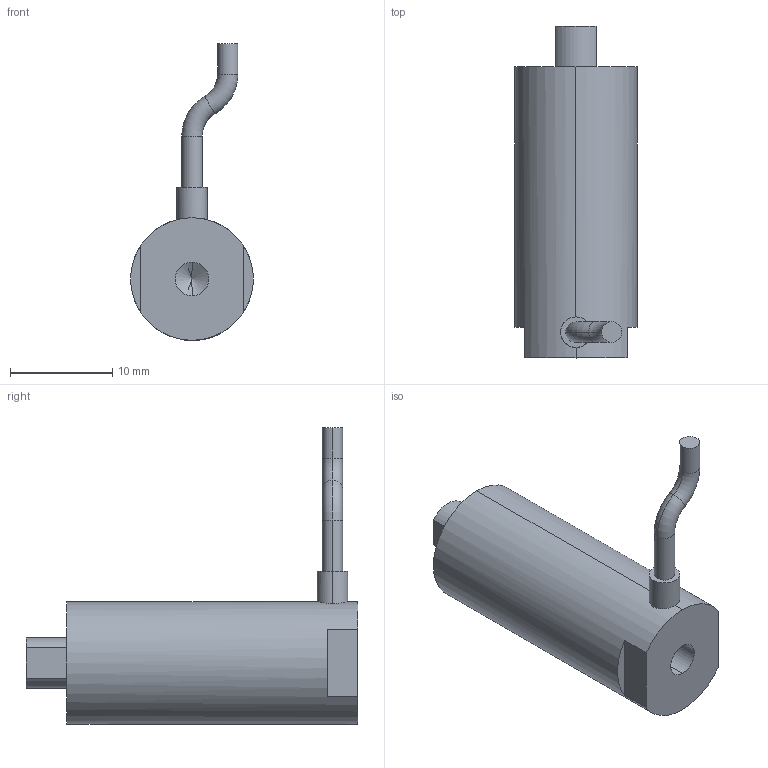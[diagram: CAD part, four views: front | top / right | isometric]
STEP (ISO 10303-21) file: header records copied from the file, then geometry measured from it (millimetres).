
FILE_DESCRIPTION (( 'STEP AP203' ), '1' );
FILE_NAME ('囀蹟恇宒20VS12.STEP', '2020-08-19T06:10:28', ( 'User' ), ( 'china' ), 'SwSTEP 2.0', 'SolidWorks 2016', '' );
FILE_SCHEMA (( 'CONFIG_CONTROL_DESIGN' ));
Products named in the file (1): 囀蹟恇宒20VS12
Bounding box: 12 x 32.5 x 29.08 mm (x, y, z)
Volume: 3253.3 mm3; surface area: 1597.6 mm2
Topology: 1 solids, 1 shells, 931 faces, 2511 edges, 1668 vertices
Faces by surface type: bspline 509, plane 311, cylinder 103, torus 4, cone 4
Entity records: 43981 total; most frequent: CARTESIAN_POINT 25093, ORIENTED_EDGE 5014, EDGE_CURVE 2507, DIRECTION 1953, B_SPLINE_CURVE_WITH_KNOTS 1676, VERTEX_POINT 1668, EDGE_LOOP 1021, ADVANCED_FACE 931
